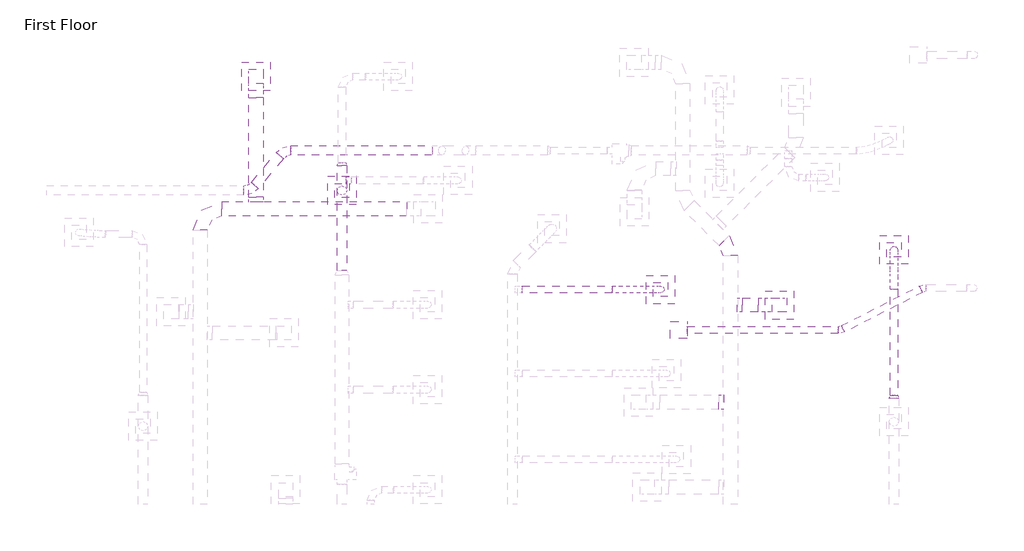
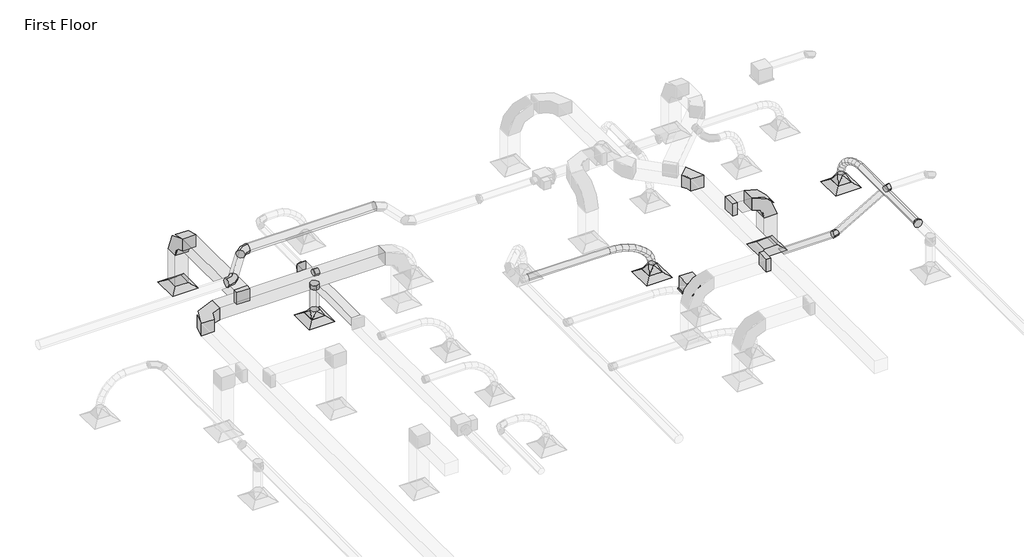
# One storey, part 30 of 61: 18 duct fittings, 15 duct segments, 5 air terminals, 1 proxy.
"""IFC4 building model written with IfcOpenShell, lengths in millimetres."""

from ifc_helpers import new_model, si_unit, point, frame, frame_2d, origin, place, context, project, spatial, polyline, circle_curve, ellipse_curve, trimmed, segment, composite_curve, outline, extrude, transform, mapped, element, save
from ifc_brep_helpers import plane_surface, cylinder_surface, advanced_brep
from components import m_exhaust_grill_er_600_x_600_face_300_x_300_connection_ff221211, proxy_47_84_lps_344db5a5, m_rectangular_elbow_radius_1_5_w_5bed5c13, m_rectangular_elbow_radius_1_5_w_86011e9f, m_rectangular_takeoff_standard_c00386d1, m_rectangular_takeoff_standard_b44bfa45, m_rectangular_to_round_transition_angle_45_degree_8f201c83, m_rectangular_to_round_transition_angle_45_degree_60daae35, m_rectangular_to_round_transition_angle_45_degree_a3d48f28, m_round_elbow_1_5_d_4104341f, m_round_elbow_1_5_d_e77d2968, m_round_takeoff_standard_d02f3bf7, m_round_takeoff_standard_8efdd074, m_round_transition_angle_45_degree_6d7b59ce

model = new_model("IFC4")

# Units and contexts
model_context = context("Model", 3, world=origin())
ifc_project = project(units=[si_unit("LENGTHUNIT", "METRE", prefix="MILLI")], contexts=[model_context])

# Site, building, storey
site = spatial("IfcSite", under=ifc_project)
building = spatial("IfcBuilding", under=site)
storey = spatial("IfcBuildingStorey", under=building, Name="First Floor", Elevation=0.0)

# Air terminals
placement = place(None, origin())
m_exhaust_grill_er_600_x_600_face_300_x_300_connection_shape = m_exhaust_grill_er_600_x_600_face_300_x_300_connection_ff221211(model_context)
element("IfcAirTerminal", 1, ObjectType="M_Return Register : RR-600 x 600 Face 300 x 300 Connection", at=placement, inside=storey, context=model_context, shape_type="MappedRepresentation", body=[
    mapped(m_exhaust_grill_er_600_x_600_face_300_x_300_connection_shape, transform((-3467.2135398, 22443.0604169, 2680.0), x_axis=(1.0, 0.0, 0.0), y_axis=(0.0, 1.0, 0.0), z_axis=(0.0, 0.0, 1.0))),
])
element("IfcAirTerminal", 2, ObjectType="M_Return Register : RR-600 x 600 Face 300 x 300 Connection", at=placement, inside=storey, context=model_context, shape_type="MappedRepresentation", body=[
    mapped(m_exhaust_grill_er_600_x_600_face_300_x_300_connection_shape, transform((-14488.9910795, 27258.4577394, 2680.0), x_axis=(1.0, 0.0, 0.0), y_axis=(0.0, 1.0, 0.0), z_axis=(0.0, 0.0, 1.0))),
])
element("IfcAirTerminal", 3, ObjectType="M_Supply Diffuser : SD-600 x 600 Face 300 x 300 Connection", at=placement, inside=storey, context=model_context, shape_type="MappedRepresentation", body=[
    mapped(m_exhaust_grill_er_600_x_600_face_300_x_300_connection_shape, transform((-1059.7406517, 23609.4204047, 2680.0), x_axis=(1.0, 0.0, 0.0), y_axis=(0.0, 1.0, 0.0), z_axis=(0.0, 0.0, 1.0))),
])
element("IfcAirTerminal", 4, ObjectType="M_Supply Diffuser : SD-600 x 600 Face 300 x 300 Connection", at=placement, inside=storey, context=model_context, shape_type="MappedRepresentation", body=[
    mapped(m_exhaust_grill_er_600_x_600_face_300_x_300_connection_shape, transform((-5974.1145029, 22770.9660121, 2680.0), x_axis=(1.0, 0.0, 0.0), y_axis=(0.0, 1.0, 0.0), z_axis=(0.0, 0.0, 1.0))),
])
element("IfcAirTerminal", 5, ObjectType="M_Supply Diffuser : SD-600 x 600 Face 300 x 300 Connection", at=placement, inside=storey, context=model_context, shape_type="MappedRepresentation", body=[
    mapped(m_exhaust_grill_er_600_x_600_face_300_x_300_connection_shape, transform((-12680.2492424, 24856.75, 2680.0), x_axis=(1.0, 0.0, 0.0), y_axis=(0.0, 1.0, 0.0), z_axis=(0.0, 0.0, 1.0))),
])

# Proxy
proxy_47_84_lps_shape = proxy_47_84_lps_344db5a5(model_context)
element("IfcBuildingElementProxy", 6, Name="M_Exhaust Unit with Cabinet - Round Connection - Ceiling Mounted : 47-84 LPS", ObjectType="M_Exhaust Unit with Cabinet - Round Connection - Ceiling Mounted : 47-84 LPS", at=placement, inside=storey, context=model_context, shape_type="MappedRepresentation", body=[
    mapped(proxy_47_84_lps_shape, transform((-5586.8009033, 21917.4766608, 2680.0), x_axis=(0.0, 1.0000000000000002, 0.0), y_axis=(-1.0000000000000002, 0.0, 0.0), z_axis=(0.0, 0.0, 1.0))),
])

# Duct fittings
m_rectangular_elbow_radius_1_5_w_shape = m_rectangular_elbow_radius_1_5_w_5bed5c13(model_context)
element("IfcDuctFitting", 7, ObjectType="M_Rectangular Elbow - Radius : 1.5 W", at=placement, inside=storey, context=model_context, shape_type="MappedRepresentation", body=[
    mapped(m_rectangular_elbow_radius_1_5_w_shape, transform((-4500.4325102, 23669.0358848, 4000.0), x_axis=(0.0, 1.0, 0.0), y_axis=(-1.0, 0.0, 0.0), z_axis=(0.0, 0.0, 1.0))),
])
m_rectangular_elbow_radius_1_5_w_2_shape = m_rectangular_elbow_radius_1_5_w_86011e9f(model_context)
element("IfcDuctFitting", 8, ObjectType="M_Rectangular Elbow - Radius : 1.5 W", at=placement, inside=storey, context=model_context, shape_type="MappedRepresentation", body=[
    mapped(m_rectangular_elbow_radius_1_5_w_2_shape, transform((-3467.2135398, 22443.0604169, 4000.0), x_axis=(0.0, 0.0, 1.0), y_axis=(-1.0, 0.0, 0.0), z_axis=(0.0, -1.0, 0.0))),
])
element("IfcDuctFitting", 9, ObjectType="M_Rectangular Elbow - Radius : 1.5 W", at=placement, inside=storey, context=model_context, shape_type="MappedRepresentation", body=[
    mapped(m_rectangular_elbow_radius_1_5_w_2_shape, transform((-15665.3877031, 24469.0232506, 4000.0), x_axis=(-1.0, 0.0, 0.0), y_axis=(0.0, -1.0, 0.0), z_axis=(0.0, 0.0, 1.0))),
])
element("IfcDuctFitting", 10, ObjectType="M_Rectangular Elbow - Radius : 1.5 W", at=placement, inside=storey, context=model_context, shape_type="MappedRepresentation", body=[
    mapped(m_rectangular_elbow_radius_1_5_w_2_shape, transform((-14488.9910795, 27258.4577394, 4000.0), x_axis=(0.0, 0.0, 1.0), y_axis=(0.0, -1.0, 0.0), z_axis=(1.0, 0.0, 0.0))),
])
m_rectangular_takeoff_standard_shape = m_rectangular_takeoff_standard_c00386d1(model_context)
element("IfcDuctFitting", 11, ObjectType="M_Rectangular Takeoff : Standard", at=placement, inside=storey, context=model_context, shape_type="MappedRepresentation", body=[
    mapped(m_rectangular_takeoff_standard_shape, transform((-4650.4325102, 20395.3598934, 4000.0), x_axis=(-1.0, 0.0, 0.0), y_axis=(0.0, 1.0, 0.0), z_axis=(0.0, 0.0, -1.0))),
])
m_rectangular_takeoff_standard_2_shape = m_rectangular_takeoff_standard_b44bfa45(model_context)
element("IfcDuctFitting", 12, ObjectType="M_Rectangular Takeoff : Standard", at=placement, inside=storey, context=model_context, shape_type="MappedRepresentation", body=[
    mapped(m_rectangular_takeoff_standard_2_shape, transform((-4350.4325102, 22443.0604169, 4000.0), x_axis=(1.0, 0.0, 0.0), y_axis=(0.0, -1.0, 0.0), z_axis=(0.0, 0.0, -1.0))),
])
element("IfcDuctFitting", 13, ObjectType="M_Rectangular Takeoff : Standard", at=placement, inside=storey, context=model_context, shape_type="MappedRepresentation", body=[
    mapped(m_rectangular_takeoff_standard_2_shape, transform((-14488.9910795, 24619.0232506, 4000.0), x_axis=(0.0, 1.0, 0.0), y_axis=(1.0, 0.0, 0.0), z_axis=(0.0, 0.0, -1.0))),
])
m_rectangular_to_round_transition_angle_45_degree_shape = m_rectangular_to_round_transition_angle_45_degree_8f201c83(model_context)
element("IfcDuctFitting", 14, ObjectType="M_Rectangular to Round Transition - Angle : 45 Degree", at=placement, inside=storey, context=model_context, shape_type="MappedRepresentation", body=[
    mapped(m_rectangular_to_round_transition_angle_45_degree_shape, transform((-1059.7406517, 23609.4204047, 2781.6), x_axis=(0.0, 0.0, 1.0), y_axis=(1.0, 0.0, 0.0), z_axis=(0.0, 1.0, 0.0))),
])
element("IfcDuctFitting", 15, ObjectType="M_Rectangular to Round Transition - Angle : 45 Degree", at=placement, inside=storey, context=model_context, shape_type="MappedRepresentation", body=[
    mapped(m_rectangular_to_round_transition_angle_45_degree_shape, transform((-5974.1145029, 22770.9660121, 2781.6), x_axis=(0.0, 0.0, 1.0), y_axis=(1.0, 0.0, 0.0), z_axis=(0.0, 1.0, 0.0))),
])
m_rectangular_to_round_transition_angle_45_degree_2_shape = m_rectangular_to_round_transition_angle_45_degree_60daae35(model_context)
element("IfcDuctFitting", 16, ObjectType="M_Rectangular to Round Transition - Angle : 45 Degree", at=placement, inside=storey, context=model_context, shape_type="MappedRepresentation", body=[
    mapped(m_rectangular_to_round_transition_angle_45_degree_2_shape, transform((-12680.2492424, 24856.75, 2781.6), x_axis=(0.0, 0.0, 1.0), y_axis=(-1.0, 0.0, 0.0), z_axis=(0.0, -1.0, 0.0))),
])
m_rectangular_to_round_transition_angle_45_degree_3_shape = m_rectangular_to_round_transition_angle_45_degree_a3d48f28(model_context)
element("IfcDuctFitting", 17, ObjectType="M_Rectangular to Round Transition - Angle : 45 Degree", at=placement, inside=storey, context=model_context, shape_type="MappedRepresentation", body=[
    mapped(m_rectangular_to_round_transition_angle_45_degree_3_shape, transform((-12680.2492424, 25379.8596581, 3644.1), x_axis=(0.0, 1.0, 0.0), y_axis=(-1.0, 0.0, 0.0), z_axis=(0.0, 0.0, 1.0))),
])
m_round_elbow_1_5_d_shape = m_round_elbow_1_5_d_4104341f(model_context)
element("IfcDuctFitting", 18, ObjectType="M_Round Elbow : 1.5 D", at=placement, inside=storey, context=model_context, shape_type="MappedRepresentation", body=[
    mapped(m_round_elbow_1_5_d_shape, transform((-13898.3480569, 25699.9431749, 4279.0), x_axis=(-1.0, 0.0, 0.0), y_axis=(0.0, -1.0, 0.0), z_axis=(0.0, 0.0, 1.0))),
])
element("IfcDuctFitting", 19, ObjectType="M_Round Elbow : 1.5 D", at=placement, inside=storey, context=model_context, shape_type="MappedRepresentation", body=[
    mapped(m_round_elbow_1_5_d_shape, transform((-14605.4144275, 24857.2942874, 4279.0), x_axis=(1.0, 0.0, 0.0), y_axis=(0.0, 1.0, 0.0), z_axis=(0.0, 0.0, 1.0))),
])
m_round_elbow_1_5_d_2_shape = m_round_elbow_1_5_d_e77d2968(model_context)
element("IfcDuctFitting", 20, ObjectType="M_Round Elbow : 1.5 D", at=placement, inside=storey, context=model_context, shape_type="MappedRepresentation", body=[
    mapped(m_round_elbow_1_5_d_2_shape, transform((-2182.120993, 21917.4766608, 2879.6), x_axis=(1.0, 0.0, 0.0), y_axis=(0.0, 1.0, 0.0), z_axis=(0.0, 0.0, 1.0))),
])
element("IfcDuctFitting", 21, ObjectType="M_Round Elbow : 1.5 D", at=placement, inside=storey, context=model_context, shape_type="MappedRepresentation", body=[
    mapped(m_round_elbow_1_5_d_2_shape, transform((-444.0219304, 22803.0823669, 2879.6), x_axis=(-1.0, 0.0, 0.0), y_axis=(0.0, -1.0, 0.0), z_axis=(0.0, 0.0, 1.0))),
])
m_round_takeoff_standard_shape = m_round_takeoff_standard_d02f3bf7(model_context)
element("IfcDuctFitting", 22, ObjectType="M_Round Takeoff : Standard", at=placement, inside=storey, context=model_context, shape_type="MappedRepresentation", body=[
    mapped(m_round_takeoff_standard_shape, transform((-12580.2492424, 25070.5269041, 3644.1), x_axis=(1.0, 0.0, 0.0), y_axis=(0.0, -1.0, 0.0), z_axis=(0.0, 0.0, -1.0))),
])
m_round_takeoff_standard_2_shape = m_round_takeoff_standard_8efdd074(model_context)
element("IfcDuctFitting", 23, ObjectType="M_Round Takeoff : Standard", at=placement, inside=storey, context=model_context, shape_type="MappedRepresentation", body=[
    mapped(m_round_takeoff_standard_2_shape, transform((-12680.2492424, 24856.75, 3544.1), x_axis=(0.0, 0.0, -1.0), y_axis=(1.0, 0.0, 0.0), z_axis=(0.0, -1.0, 0.0))),
])
m_round_transition_angle_45_degree_shape = m_round_transition_angle_45_degree_6d7b59ce(model_context)
element("IfcDuctFitting", 24, ObjectType="M_Round Transition - Angle : 45 Degree", at=placement, inside=storey, context=model_context, shape_type="MappedRepresentation", body=[
    mapped(m_round_transition_angle_45_degree_shape, transform((-1059.7279224, 20476.6573912, 3619.1), x_axis=(0.0, 1.0, 0.0), y_axis=(-1.0, 0.0, 0.0), z_axis=(0.0, 0.0, 1.0))),
])

# Duct segments
element("IfcDuctSegment", 25, ObjectType="Flex - Round", at=placement, inside=storey, context=model_context, shape_type="AdvancedBrep", body=[
    advanced_brep(
    [(-1134.7279224, 22776.6570923, 3619.1), (-1059.7278927, 22769.2040954, 3544.471263), (-984.7279224, 22776.6576901, 3619.1), (-1059.7279521, 22784.110687, 3693.728737), (-1134.7284694, 22913.9210664, 3605.3912192), (-1059.7284144, 22900.1261645, 3531.3958588), (-984.7284694, 22913.9221113, 3605.3911745), (-1059.7285244, 22927.7170132, 3679.3865349), (-1134.7406517, 23609.4192167, 2962.6661385), (-1059.7418043, 23683.4301837, 2974.8131406), (-984.7406517, 23609.4215926, 2962.6658958), (-1059.7394991, 23535.4106257, 2950.5188937), (-1134.7299114, 23055.8912751, 3566.2374927), (-1059.72974, 23030.6381098, 3495.4021876), (-984.7299114, 23055.8930371, 3566.2372503), (-1059.7300827, 23081.1462023, 3637.0725554), (-1134.73195, 23195.4764042, 3504.5976185), (-1059.7316338, 23160.3037267, 3438.1427047), (-984.7319501, 23195.4786061, 3504.5971818), (-1059.7322663, 23230.6512835, 3571.0520956), (-1134.7342871, 23325.584825, 3423.4304534), (-1059.733802, 23281.0127691, 3362.8392715), (-984.7342871, 23325.5872714, 3423.4298642), (-1059.7347721, 23370.1593272, 3484.0210461), (-1134.7366241, 23439.1249278, 3325.6948584), (-1059.7359432, 23385.0406527, 3273.2918178), (-984.7366241, 23439.1274672, 3325.6941891), (-1059.7373049, 23493.2117422, 3378.0972297), (-1134.7386627, 23529.0051103, 3214.3496873), (-1059.7377627, 23465.2580046, 3173.9171334), (-984.7386628, 23529.0076201, 3214.3490547), (-1059.7395628, 23592.7547257, 3254.7816087), (-1134.7401047, 23588.1337615, 3092.353784), (-1059.7389975, 23515.8905078, 3069.4507226), (-984.7401048, 23588.1361655, 3092.3533696), (-1059.741212, 23660.3794192, 3115.256431)],
    [
        (0, 1, circle_curve(frame((-1059.7279224, 22776.6573912, 3619.1), z_axis=(3.965011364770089e-06, -0.995049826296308, 0.09937727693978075), x_axis=(-0.999999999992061, -3.984736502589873e-06, 0.0)), 75.0)),
        (1, 2, circle_curve(frame((-1059.7279224, 22776.6573912, 3619.1), z_axis=(3.965011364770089e-06, -0.995049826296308, 0.09937727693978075), x_axis=(-0.999999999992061, -3.984736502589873e-06, 0.0)), 75.0)),
        (2, 3, circle_curve(frame((-1059.7279224, 22776.6573912, 3619.1), z_axis=(3.965011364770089e-06, -0.995049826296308, 0.09937727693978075), x_axis=(-0.999999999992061, -3.984736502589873e-06, 0.0)), 75.0)),
        (3, 0, circle_curve(frame((-1059.7279224, 22776.6573912, 3619.1), z_axis=(3.965011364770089e-06, -0.995049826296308, 0.09937727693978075), x_axis=(-0.999999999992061, -3.984736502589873e-06, 0.0)), 75.0)),
        (0, 4),
        (4, 5, ellipse_curve(frame((-1059.7284694, 22913.9215888, 3605.3911969), z_axis=(6.903009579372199e-06, -0.9830610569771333, 0.18327836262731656), x_axis=(-3.44036717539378e-05, -0.183278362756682, -0.9830610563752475)), 75.270338, 75.0)),
        (5, 1),
        (5, 6, ellipse_curve(frame((-1059.7284694, 22913.9215888, 3605.3911969), z_axis=(6.903009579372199e-06, -0.9830610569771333, 0.18327836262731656), x_axis=(-3.44036717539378e-05, -0.183278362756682, -0.9830610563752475)), 75.270338, 75.0)),
        (6, 2),
        (6, 7, ellipse_curve(frame((-1059.7284694, 22913.9215888, 3605.3911969), z_axis=(6.903009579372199e-06, -0.9830610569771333, 0.18327836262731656), x_axis=(-3.44036717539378e-05, -0.183278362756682, -0.9830610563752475)), 75.270338, 75.0)),
        (7, 3),
        (7, 4, ellipse_curve(frame((-1059.7284694, 22913.9215888, 3605.3911969), z_axis=(6.903009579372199e-06, -0.9830610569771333, 0.18327836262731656), x_axis=(-3.44036717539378e-05, -0.183278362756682, -0.9830610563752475)), 75.270338, 75.0)),
        (8, 9, circle_curve(frame((-1059.7406517, 23609.4204047, 2962.6660172), z_axis=(-4.161849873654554e-06, 0.16196164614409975, -0.9867970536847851), x_axis=(-0.9999999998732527, -1.583910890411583e-05, 1.617882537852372e-06)), 75.0)),
        (9, 10, circle_curve(frame((-1059.7406517, 23609.4204047, 2962.6660172), z_axis=(-4.161849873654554e-06, 0.16196164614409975, -0.9867970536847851), x_axis=(-0.9999999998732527, -1.583910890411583e-05, 1.617882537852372e-06)), 75.0)),
        (10, 11, circle_curve(frame((-1059.7406517, 23609.4204047, 2962.6660172), z_axis=(-4.161849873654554e-06, 0.16196164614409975, -0.9867970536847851), x_axis=(-0.9999999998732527, -1.583910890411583e-05, 1.617882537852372e-06)), 75.0)),
        (11, 8, circle_curve(frame((-1059.7406517, 23609.4204047, 2962.6660172), z_axis=(-4.161849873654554e-06, 0.16196164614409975, -0.9867970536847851), x_axis=(-0.9999999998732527, -1.583910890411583e-05, 1.617882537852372e-06)), 75.0)),
        (4, 12),
        (12, 13, ellipse_curve(frame((-1059.7299114, 23055.8921561, 3566.2373715), z_axis=(1.1607200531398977e-05, -0.9419280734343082, 0.33581468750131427), x_axis=(-2.434409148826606e-05, -0.33581468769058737, -0.9419280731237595)), 75.2023279, 75.0)),
        (13, 5),
        (13, 14, ellipse_curve(frame((-1059.7299114, 23055.8921561, 3566.2373715), z_axis=(1.1607200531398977e-05, -0.9419280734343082, 0.33581468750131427), x_axis=(-2.434409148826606e-05, -0.33581468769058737, -0.9419280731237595)), 75.2023279, 75.0)),
        (14, 6),
        (14, 15, ellipse_curve(frame((-1059.7299114, 23055.8921561, 3566.2373715), z_axis=(1.1607200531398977e-05, -0.9419280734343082, 0.33581468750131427), x_axis=(-2.434409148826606e-05, -0.33581468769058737, -0.9419280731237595)), 75.2023279, 75.0)),
        (15, 7),
        (15, 12, ellipse_curve(frame((-1059.7299114, 23055.8921561, 3566.2373715), z_axis=(1.1607200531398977e-05, -0.9419280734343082, 0.33581468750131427), x_axis=(-2.434409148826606e-05, -0.33581468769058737, -0.9419280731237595)), 75.2023279, 75.0)),
        (12, 16),
        (16, 17, ellipse_curve(frame((-1059.73195, 23195.4775051, 3504.5974001), z_axis=(1.4336203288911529e-05, -0.8838325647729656, 0.46780337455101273), x_axis=(-1.3251880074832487e-05, -0.46780337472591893, -0.8838325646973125)), 75.1892362, 75.0)),
        (17, 13),
        (17, 18, ellipse_curve(frame((-1059.73195, 23195.4775051, 3504.5974001), z_axis=(1.4336203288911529e-05, -0.8838325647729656, 0.46780337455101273), x_axis=(-1.3251880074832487e-05, -0.46780337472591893, -0.8838325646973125)), 75.1892362, 75.0)),
        (18, 14),
        (18, 19, ellipse_curve(frame((-1059.73195, 23195.4775051, 3504.5974001), z_axis=(1.4336203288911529e-05, -0.8838325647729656, 0.46780337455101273), x_axis=(-1.3251880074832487e-05, -0.46780337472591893, -0.8838325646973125)), 75.1892362, 75.0)),
        (19, 15),
        (19, 16, ellipse_curve(frame((-1059.73195, 23195.4775051, 3504.5974001), z_axis=(1.4336203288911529e-05, -0.8838325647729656, 0.46780337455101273), x_axis=(-1.3251880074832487e-05, -0.46780337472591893, -0.8838325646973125)), 75.1892362, 75.0)),
        (16, 20),
        (20, 21, ellipse_curve(frame((-1059.7342871, 23325.5860482, 3423.4301588), z_axis=(1.5464909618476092e-05, -0.8055167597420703, 0.59257299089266), x_axis=(-2.355468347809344e-06, -0.5925729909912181, -0.805516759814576)), 75.2198965, 75.0)),
        (21, 17),
        (21, 22, ellipse_curve(frame((-1059.7342871, 23325.5860482, 3423.4301588), z_axis=(1.5464909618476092e-05, -0.8055167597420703, 0.59257299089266), x_axis=(-2.355468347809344e-06, -0.5925729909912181, -0.805516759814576)), 75.2198965, 75.0)),
        (22, 18),
        (22, 23, ellipse_curve(frame((-1059.7342871, 23325.5860482, 3423.4301588), z_axis=(1.5464909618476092e-05, -0.8055167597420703, 0.59257299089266), x_axis=(-2.355468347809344e-06, -0.5925729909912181, -0.805516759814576)), 75.2198965, 75.0)),
        (23, 19),
        (23, 20, ellipse_curve(frame((-1059.7342871, 23325.5860482, 3423.4301588), z_axis=(1.5464909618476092e-05, -0.8055167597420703, 0.59257299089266), x_axis=(-2.355468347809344e-06, -0.5925729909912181, -0.805516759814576)), 75.2198965, 75.0)),
        (20, 24),
        (24, 25, ellipse_curve(frame((-1059.7366241, 23439.1261975, 3325.6945238), z_axis=(1.4984618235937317e-05, -0.6958454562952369, 0.718191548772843), x_axis=(7.486205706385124e-06, -0.7181915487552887, -0.6958454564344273)), 75.307966, 75.0)),
        (25, 21),
        (25, 26, ellipse_curve(frame((-1059.7366241, 23439.1261975, 3325.6945238), z_axis=(1.4984618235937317e-05, -0.6958454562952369, 0.718191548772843), x_axis=(7.486205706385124e-06, -0.7181915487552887, -0.6958454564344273)), 75.307966, 75.0)),
        (26, 22),
        (26, 27, ellipse_curve(frame((-1059.7366241, 23439.1261975, 3325.6945238), z_axis=(1.4984618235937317e-05, -0.6958454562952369, 0.718191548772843), x_axis=(7.486205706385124e-06, -0.7181915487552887, -0.6958454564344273)), 75.307966, 75.0)),
        (27, 23),
        (27, 24, ellipse_curve(frame((-1059.7366241, 23439.1261975, 3325.6945238), z_axis=(1.4984618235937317e-05, -0.6958454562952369, 0.718191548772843), x_axis=(7.486205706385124e-06, -0.7181915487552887, -0.6958454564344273)), 75.307966, 75.0)),
        (24, 28),
        (28, 29, ellipse_curve(frame((-1059.7386628, 23529.0063652, 3214.349371), z_axis=(1.25229116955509e-05, -0.5356029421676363, 0.8444699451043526), x_axis=(1.5882722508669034e-05, -0.8444699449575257, -0.5356029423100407)), 75.4892, 75.0)),
        (29, 25),
        (29, 30, ellipse_curve(frame((-1059.7386628, 23529.0063652, 3214.349371), z_axis=(1.25229116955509e-05, -0.5356029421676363, 0.8444699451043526), x_axis=(1.5882722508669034e-05, -0.8444699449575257, -0.5356029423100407)), 75.4892, 75.0)),
        (30, 26),
        (30, 31, ellipse_curve(frame((-1059.7386628, 23529.0063652, 3214.349371), z_axis=(1.25229116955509e-05, -0.5356029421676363, 0.8444699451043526), x_axis=(1.5882722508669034e-05, -0.8444699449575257, -0.5356029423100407)), 75.4892, 75.0)),
        (31, 27),
        (31, 28, ellipse_curve(frame((-1059.7386628, 23529.0063652, 3214.349371), z_axis=(1.25229116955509e-05, -0.5356029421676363, 0.8444699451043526), x_axis=(1.5882722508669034e-05, -0.8444699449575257, -0.5356029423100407)), 75.4892, 75.0)),
        (28, 32),
        (32, 33, ellipse_curve(frame((-1059.7401047, 23588.1349635, 3092.3535768), z_axis=(7.476910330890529e-06, -0.30219680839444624, 0.953245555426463), x_axis=(2.250996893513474e-05, -0.9532455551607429, -0.3021968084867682)), 75.7878757, 75.0)),
        (33, 29),
        (33, 34, ellipse_curve(frame((-1059.7401047, 23588.1349635, 3092.3535768), z_axis=(7.476910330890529e-06, -0.30219680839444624, 0.953245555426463), x_axis=(2.250996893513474e-05, -0.9532455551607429, -0.3021968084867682)), 75.7878757, 75.0)),
        (34, 30),
        (34, 35, ellipse_curve(frame((-1059.7401047, 23588.1349635, 3092.3535768), z_axis=(7.476910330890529e-06, -0.30219680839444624, 0.953245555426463), x_axis=(2.250996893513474e-05, -0.9532455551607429, -0.3021968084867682)), 75.7878757, 75.0)),
        (35, 31),
        (35, 32, ellipse_curve(frame((-1059.7401047, 23588.1349635, 3092.3535768), z_axis=(7.476910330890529e-06, -0.30219680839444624, 0.953245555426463), x_axis=(2.250996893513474e-05, -0.9532455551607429, -0.3021968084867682)), 75.7878757, 75.0)),
        (32, 8),
        (11, 33),
        (10, 34),
        (9, 35),
    ],
    [
        plane_surface(frame((-1059.7279224, 22784.110687, 3693.728737), z_axis=(3.965011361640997e-06, -0.9950498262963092, 0.0993772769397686), x_axis=(0.9999999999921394, 3.945383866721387e-06, -3.9403203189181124e-07))),
        cylinder_surface(frame((-1059.7279224, 22776.6573912, 3619.1), z_axis=(3.96501136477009e-06, -0.9950498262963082, 0.09937727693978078), x_axis=(-0.999999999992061, -3.984736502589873e-06, 0.0)), 75.0),
        plane_surface(frame((-1059.7406517, 23683.4301837, 2974.8131406), z_axis=(-4.161849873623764e-06, 0.1619616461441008, -0.986797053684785), x_axis=(0.9999999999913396, 6.740600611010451e-07, -4.106901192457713e-06))),
        cylinder_surface(frame((-1059.7284694, 22913.9215888, 3605.3911969), z_axis=(9.79142262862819e-06, -0.9640108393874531, 0.2658629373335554), x_axis=(-0.9999999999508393, -9.85512551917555e-06, 1.094454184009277e-06)), 75.0),
        cylinder_surface(frame((-1059.7299114, 23055.8921561, 3566.2373715), z_axis=(1.3360521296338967e-05, -0.9147768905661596, 0.40395945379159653), x_axis=(-0.9999999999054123, -1.3541544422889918e-05, 2.408730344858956e-06)), 75.0),
        cylinder_surface(frame((-1059.73195, 23195.4775051, 3504.5974001), z_axis=(1.5239722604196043e-05, -0.848439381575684, 0.5292925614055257), x_axis=(-0.9999999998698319, -1.5735098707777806e-05, 3.569755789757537e-06)), 75.0),
        cylinder_surface(frame((-1059.7342871, 23325.5860482, 3423.4301588), z_axis=(1.5599676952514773e-05, -0.7578844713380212, 0.6523887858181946), x_axis=(-0.9999999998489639, -1.682203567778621e-05, 4.36935366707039e-06)), 75.0),
        cylinder_surface(frame((-1059.7366241, 23439.1261975, 3325.6945238), z_axis=(1.4247002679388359e-05, -0.628115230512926, 0.7781203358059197), x_axis=(-0.999999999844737, -1.701833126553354e-05, 4.5719530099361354e-06)), 75.0),
        cylinder_surface(frame((-1059.7386628, 23529.0063652, 3214.349371), z_axis=(1.0636513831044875e-05, -0.43614881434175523, 0.8998745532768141), x_axis=(-0.9999999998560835, -1.653303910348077e-05, 3.8068066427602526e-06)), 75.0),
        cylinder_surface(frame((-1059.7401047, 23588.1349635, 3092.3535768), z_axis=(4.161849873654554e-06, -0.16196164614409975, 0.9867970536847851), x_axis=(-0.9999999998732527, -1.583910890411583e-05, 1.617882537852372e-06)), 75.0),
    ],
    [
        (0, [[1, 2, 3, 4]]),
        (1, [[-1, 5, 6, 7]]),
        (1, [[-2, -7, 8, 9]]),
        (1, [[-3, -9, 10, 11]]),
        (1, [[-4, -11, 12, -5]]),
        (2, [[13, 14, 15, 16]]),
        (3, [[-6, 17, 18, 19]]),
        (3, [[-8, -19, 20, 21]]),
        (3, [[-10, -21, 22, 23]]),
        (3, [[-12, -23, 24, -17]]),
        (4, [[-18, 25, 26, 27]]),
        (4, [[-20, -27, 28, 29]]),
        (4, [[-22, -29, 30, 31]]),
        (4, [[-24, -31, 32, -25]]),
        (5, [[-26, 33, 34, 35]]),
        (5, [[-28, -35, 36, 37]]),
        (5, [[-30, -37, 38, 39]]),
        (5, [[-32, -39, 40, -33]]),
        (6, [[-34, 41, 42, 43]]),
        (6, [[-36, -43, 44, 45]]),
        (6, [[-38, -45, 46, 47]]),
        (6, [[-40, -47, 48, -41]]),
        (7, [[-42, 49, 50, 51]]),
        (7, [[-44, -51, 52, 53]]),
        (7, [[-46, -53, 54, 55]]),
        (7, [[-48, -55, 56, -49]]),
        (8, [[-50, 57, 58, 59]]),
        (8, [[-52, -59, 60, 61]]),
        (8, [[-54, -61, 62, 63]]),
        (8, [[-56, -63, 64, -57]]),
        (9, [[-58, 65, -16, 66]]),
        (9, [[-60, -66, -15, 67]]),
        (9, [[-62, -67, -14, 68]]),
        (9, [[-64, -68, -13, -65]]),
    ],
),
])
element("IfcDuctSegment", 26, ObjectType="Flex - Round", at=placement, inside=storey, context=model_context, shape_type="AdvancedBrep", body=[
    advanced_brep(
    [(-6989.2747853, 22845.9660121, 3619.1), (-6994.1836938, 22770.9660121, 3544.2608216), (-6989.2747853, 22695.9660121, 3619.1), (-6984.3658768, 22770.9660121, 3693.9391784), (-6848.3295853, 22845.9660121, 3609.8550149), (-6857.5100065, 22770.9660121, 3535.2960169), (-6848.3295853, 22695.9660121, 3609.8550149), (-6839.1491642, 22770.9660121, 3684.414013), (-5974.1145029, 22845.9660121, 2962.6660172), (-5900.1449084, 22770.9660121, 2975.055492), (-5974.1145029, 22695.9660121, 2962.6660172), (-6048.0840974, 22770.9660121, 2950.2765424), (-6698.6470412, 22845.9660121, 3582.6904907), (-6715.8887754, 22770.9660121, 3509.5944671), (-6698.6470412, 22695.9660121, 3582.6904907), (-6681.4053071, 22770.9660121, 3655.7865143), (-6546.987759, 22845.9660121, 3538.4620736), (-6571.8268019, 22770.9660121, 3467.5816541), (-6546.987759, 22695.9660121, 3538.4620736), (-6522.1487162, 22770.9660121, 3609.342493), (-6400.1123448, 22845.9660121, 3478.02541), (-6432.8233473, 22770.9660121, 3410.3841642), (-6400.1123448, 22695.9660121, 3478.02541), (-6367.4013422, 22770.9660121, 3545.6666557), (-6264.7814044, 22845.9660121, 3402.2361462), (-6306.2336968, 22770.9660121, 3339.4902771), (-6264.7814044, 22695.9660121, 3402.2361462), (-6223.3291121, 22770.9660121, 3464.9820154), (-6147.7555441, 22845.9660121, 3311.9499287), (-6199.2057455, 22770.9660121, 3256.9175119), (-6147.7555441, 22695.9660121, 3311.9499287), (-6096.3053426, 22770.9660121, 3366.9823456), (-6055.7953697, 22845.9660121, 3208.0224038), (-6118.1740169, 22770.9660121, 3165.3406195), (-6055.7953697, 22695.9660121, 3208.0224038), (-5993.4167224, 22770.9660121, 3250.7041881), (-5995.6614873, 22845.9660121, 3091.3092178), (-6067.6964425, 22770.9660121, 3067.3692548), (-5995.6614873, 22695.9660121, 3091.3092178), (-5923.626532, 22770.9660121, 3115.2491809)],
    [
        (0, 1, circle_curve(frame((-6989.2747853, 22770.9660121, 3619.1), z_axis=(-0.9978557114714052, 0.0, 0.06545211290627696), x_axis=(0.0, 1.0, 0.0)), 75.0)),
        (1, 2, circle_curve(frame((-6989.2747853, 22770.9660121, 3619.1), z_axis=(-0.9978557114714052, 0.0, 0.06545211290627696), x_axis=(0.0, 1.0, 0.0)), 75.0)),
        (2, 3, circle_curve(frame((-6989.2747853, 22770.9660121, 3619.1), z_axis=(-0.9978557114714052, 0.0, 0.06545211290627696), x_axis=(0.0, 1.0, 0.0)), 75.0)),
        (3, 0, circle_curve(frame((-6989.2747853, 22770.9660121, 3619.1), z_axis=(-0.9978557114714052, 0.0, 0.06545211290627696), x_axis=(0.0, 1.0, 0.0)), 75.0)),
        (0, 4),
        (4, 5, ellipse_curve(frame((-6848.3295853, 22770.9660121, 3609.8550149), z_axis=(-0.9925046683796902, 0.0, 0.1222067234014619), x_axis=(-0.12220672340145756, 0.0, -0.9925046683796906)), 75.1220628, 75.0)),
        (5, 1),
        (5, 6, ellipse_curve(frame((-6848.3295853, 22770.9660121, 3609.8550149), z_axis=(-0.9925046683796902, 0.0, 0.1222067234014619), x_axis=(-0.12220672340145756, 0.0, -0.9925046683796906)), 75.1220628, 75.0)),
        (6, 2),
        (6, 7, ellipse_curve(frame((-6848.3295853, 22770.9660121, 3609.8550149), z_axis=(-0.9925046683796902, 0.0, 0.1222067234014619), x_axis=(-0.12220672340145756, 0.0, -0.9925046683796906)), 75.1220628, 75.0)),
        (7, 3),
        (7, 4, ellipse_curve(frame((-6848.3295853, 22770.9660121, 3609.8550149), z_axis=(-0.9925046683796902, 0.0, 0.1222067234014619), x_axis=(-0.12220672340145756, 0.0, -0.9925046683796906)), 75.1220628, 75.0)),
        (8, 9, circle_curve(frame((-5974.1145029, 22770.9660121, 2962.6660172), z_axis=(0.16519299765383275, 0.0, -0.9862612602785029), x_axis=(0.0, 1.0, 0.0)), 75.0)),
        (9, 10, circle_curve(frame((-5974.1145029, 22770.9660121, 2962.6660172), z_axis=(0.16519299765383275, 0.0, -0.9862612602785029), x_axis=(0.0, 1.0, 0.0)), 75.0)),
        (10, 11, circle_curve(frame((-5974.1145029, 22770.9660121, 2962.6660172), z_axis=(0.16519299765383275, 0.0, -0.9862612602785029), x_axis=(0.0, 1.0, 0.0)), 75.0)),
        (11, 8, circle_curve(frame((-5974.1145029, 22770.9660121, 2962.6660172), z_axis=(0.16519299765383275, 0.0, -0.9862612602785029), x_axis=(0.0, 1.0, 0.0)), 75.0)),
        (4, 12),
        (12, 13, ellipse_curve(frame((-6698.6470412, 22770.9660121, 3582.6904907), z_axis=(-0.9732903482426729, 0.0, 0.22957765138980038), x_axis=(-0.22957765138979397, 0.0, -0.9732903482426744)), 75.1019711, 75.0)),
        (13, 5),
        (13, 14, ellipse_curve(frame((-6698.6470412, 22770.9660121, 3582.6904907), z_axis=(-0.9732903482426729, 0.0, 0.22957765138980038), x_axis=(-0.22957765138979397, 0.0, -0.9732903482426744)), 75.1019711, 75.0)),
        (14, 6),
        (14, 15, ellipse_curve(frame((-6698.6470412, 22770.9660121, 3582.6904907), z_axis=(-0.9732903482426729, 0.0, 0.22957765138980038), x_axis=(-0.22957765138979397, 0.0, -0.9732903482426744)), 75.1019711, 75.0)),
        (15, 7),
        (15, 12, ellipse_curve(frame((-6698.6470412, 22770.9660121, 3582.6904907), z_axis=(-0.9732903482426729, 0.0, 0.22957765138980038), x_axis=(-0.22957765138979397, 0.0, -0.9732903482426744)), 75.1019711, 75.0)),
        (12, 16),
        (16, 17, ellipse_curve(frame((-6546.987759, 22770.9660121, 3538.4620736), z_axis=(-0.943730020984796, 0.0, 0.3307168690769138), x_axis=(-0.3307168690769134, 0.0, -0.9437300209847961)), 75.1066702, 75.0)),
        (17, 13),
        (17, 18, ellipse_curve(frame((-6546.987759, 22770.9660121, 3538.4620736), z_axis=(-0.943730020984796, 0.0, 0.3307168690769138), x_axis=(-0.3307168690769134, 0.0, -0.9437300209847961)), 75.1066702, 75.0)),
        (18, 14),
        (18, 19, ellipse_curve(frame((-6546.987759, 22770.9660121, 3538.4620736), z_axis=(-0.943730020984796, 0.0, 0.3307168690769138), x_axis=(-0.3307168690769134, 0.0, -0.9437300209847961)), 75.1066702, 75.0)),
        (19, 15),
        (19, 16, ellipse_curve(frame((-6546.987759, 22770.9660121, 3538.4620736), z_axis=(-0.943730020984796, 0.0, 0.3307168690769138), x_axis=(-0.3307168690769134, 0.0, -0.9437300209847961)), 75.1066702, 75.0)),
        (16, 20),
        (20, 21, ellipse_curve(frame((-6400.1123448, 22770.9660121, 3478.02541), z_axis=(-0.9002564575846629, 0.0, 0.43535997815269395), x_axis=(-0.4353599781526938, 0.0, -0.900256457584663)), 75.1355296, 75.0)),
        (21, 17),
        (21, 22, ellipse_curve(frame((-6400.1123448, 22770.9660121, 3478.02541), z_axis=(-0.9002564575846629, 0.0, 0.43535997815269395), x_axis=(-0.4353599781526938, 0.0, -0.900256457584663)), 75.1355296, 75.0)),
        (22, 18),
        (22, 23, ellipse_curve(frame((-6400.1123448, 22770.9660121, 3478.02541), z_axis=(-0.9002564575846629, 0.0, 0.43535997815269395), x_axis=(-0.4353599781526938, 0.0, -0.900256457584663)), 75.1355296, 75.0)),
        (23, 19),
        (23, 20, ellipse_curve(frame((-6400.1123448, 22770.9660121, 3478.02541), z_axis=(-0.9002564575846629, 0.0, 0.43535997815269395), x_axis=(-0.4353599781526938, 0.0, -0.900256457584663)), 75.1355296, 75.0)),
        (20, 24),
        (24, 25, ellipse_curve(frame((-6264.7814044, 22770.9660121, 3402.2361462), z_axis=(-0.8343646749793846, 0.0, 0.5512128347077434), x_axis=(-0.5512128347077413, 0.0, -0.8343646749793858)), 75.2019723, 75.0)),
        (25, 21),
        (25, 26, ellipse_curve(frame((-6264.7814044, 22770.9660121, 3402.2361462), z_axis=(-0.8343646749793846, 0.0, 0.5512128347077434), x_axis=(-0.5512128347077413, 0.0, -0.8343646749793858)), 75.2019723, 75.0)),
        (26, 22),
        (26, 27, ellipse_curve(frame((-6264.7814044, 22770.9660121, 3402.2361462), z_axis=(-0.8343646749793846, 0.0, 0.5512128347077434), x_axis=(-0.5512128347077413, 0.0, -0.8343646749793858)), 75.2019723, 75.0)),
        (27, 23),
        (27, 24, ellipse_curve(frame((-6264.7814044, 22770.9660121, 3402.2361462), z_axis=(-0.8343646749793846, 0.0, 0.5512128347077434), x_axis=(-0.5512128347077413, 0.0, -0.8343646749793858)), 75.2019723, 75.0)),
        (24, 28),
        (28, 29, ellipse_curve(frame((-6147.7555441, 22770.9660121, 3311.9499287), z_axis=(-0.7304815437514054, 0.0, 0.682932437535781), x_axis=(-0.6829324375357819, 0.0, -0.7304815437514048)), 75.3371763, 75.0)),
        (29, 25),
        (29, 30, ellipse_curve(frame((-6147.7555441, 22770.9660121, 3311.9499287), z_axis=(-0.7304815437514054, 0.0, 0.682932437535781), x_axis=(-0.6829324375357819, 0.0, -0.7304815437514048)), 75.3371763, 75.0)),
        (30, 26),
        (30, 31, ellipse_curve(frame((-6147.7555441, 22770.9660121, 3311.9499287), z_axis=(-0.7304815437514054, 0.0, 0.682932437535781), x_axis=(-0.6829324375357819, 0.0, -0.7304815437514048)), 75.3371763, 75.0)),
        (31, 27),
        (31, 28, ellipse_curve(frame((-6147.7555441, 22770.9660121, 3311.9499287), z_axis=(-0.7304815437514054, 0.0, 0.682932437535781), x_axis=(-0.6829324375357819, 0.0, -0.7304815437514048)), 75.3371763, 75.0)),
        (28, 32),
        (32, 33, ellipse_curve(frame((-6055.7953697, 22770.9660121, 3208.0224038), z_axis=(-0.5646988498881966, 0.0, 0.8252970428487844), x_axis=(-0.8252970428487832, 0.0, -0.5646988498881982)), 75.5832676, 75.0)),
        (33, 29),
        (33, 34, ellipse_curve(frame((-6055.7953697, 22770.9660121, 3208.0224038), z_axis=(-0.5646988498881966, 0.0, 0.8252970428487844), x_axis=(-0.8252970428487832, 0.0, -0.5646988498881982)), 75.5832676, 75.0)),
        (34, 30),
        (34, 35, ellipse_curve(frame((-6055.7953697, 22770.9660121, 3208.0224038), z_axis=(-0.5646988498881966, 0.0, 0.8252970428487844), x_axis=(-0.8252970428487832, 0.0, -0.5646988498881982)), 75.5832676, 75.0)),
        (35, 31),
        (35, 32, ellipse_curve(frame((-6055.7953697, 22770.9660121, 3208.0224038), z_axis=(-0.5646988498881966, 0.0, 0.8252970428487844), x_axis=(-0.8252970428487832, 0.0, -0.5646988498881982)), 75.5832676, 75.0)),
        (32, 36),
        (36, 37, ellipse_curve(frame((-5995.6614873, 22770.9660121, 3091.3092178), z_axis=(-0.315377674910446, 0.0, 0.9489662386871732), x_axis=(-0.9489662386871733, 0.0, -0.3153776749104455)), 75.9088704, 75.0)),
        (37, 33),
        (37, 38, ellipse_curve(frame((-5995.6614873, 22770.9660121, 3091.3092178), z_axis=(-0.315377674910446, 0.0, 0.9489662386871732), x_axis=(-0.9489662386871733, 0.0, -0.3153776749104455)), 75.9088704, 75.0)),
        (38, 34),
        (38, 39, ellipse_curve(frame((-5995.6614873, 22770.9660121, 3091.3092178), z_axis=(-0.315377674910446, 0.0, 0.9489662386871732), x_axis=(-0.9489662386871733, 0.0, -0.3153776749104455)), 75.9088704, 75.0)),
        (39, 35),
        (39, 36, ellipse_curve(frame((-5995.6614873, 22770.9660121, 3091.3092178), z_axis=(-0.315377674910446, 0.0, 0.9489662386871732), x_axis=(-0.9489662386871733, 0.0, -0.3153776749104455)), 75.9088704, 75.0)),
        (36, 8),
        (11, 37),
        (10, 38),
        (9, 39),
    ],
    [
        plane_surface(frame((-6989.2747853, 22845.9660121, 3619.1), z_axis=(-0.9978557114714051, 0.0, 0.06545211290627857), x_axis=(0.06545211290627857, 0.0, 0.9978557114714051))),
        cylinder_surface(frame((-6989.2747853, 22770.9660121, 3619.1), z_axis=(-0.9978557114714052, 0.0, 0.06545211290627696), x_axis=(0.0, 1.0, 0.0)), 75.0),
        plane_surface(frame((-5974.1145029, 22845.9660121, 2962.6660172), z_axis=(0.16519299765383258, 0.0, -0.986261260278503), x_axis=(0.986261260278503, 0.0, 0.16519299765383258))),
        cylinder_surface(frame((-6848.3295853, 22770.9660121, 3609.8550149), z_axis=(-0.983928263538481, 0.0, 0.17856419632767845), x_axis=(0.0, 1.0, 0.0)), 75.0),
        cylinder_surface(frame((-6698.6470412, 22770.9660121, 3582.6904907), z_axis=(-0.9600094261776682, 0.0, 0.279967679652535), x_axis=(0.0, 1.0, 0.0)), 75.0),
        cylinder_surface(frame((-6546.987759, 22770.9660121, 3538.4620736), z_axis=(-0.9247699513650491, 0.0, 0.3805266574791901), x_axis=(0.0, 1.0, 0.0)), 75.0),
        cylinder_surface(frame((-6400.1123448, 22770.9660121, 3478.02541), z_axis=(-0.8724951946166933, 0.0, 0.48862269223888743), x_axis=(0.0, 1.0, 0.0)), 75.0),
        cylinder_surface(frame((-6264.7814044, 22770.9660121, 3402.2361462), z_axis=(-0.791752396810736, 0.0, 0.6108421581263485), x_axis=(0.0, 1.0, 0.0)), 75.0),
        cylinder_surface(frame((-6147.7555441, 22770.9660121, 3311.9499287), z_axis=(-0.6626720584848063, 0.0, 0.748909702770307), x_axis=(0.0, 1.0, 0.0)), 75.0),
        cylinder_surface(frame((-6055.7953697, 22770.9660121, 3208.0224038), z_axis=(-0.4580102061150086, 0.0, 0.8889469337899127), x_axis=(0.0, 1.0, 0.0)), 75.0),
        cylinder_surface(frame((-5995.6614873, 22770.9660121, 3091.3092178), z_axis=(-0.16519299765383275, 0.0, 0.9862612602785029), x_axis=(0.0, 1.0, 0.0)), 75.0),
    ],
    [
        (0, [[1, 2, 3, 4]]),
        (1, [[-1, 5, 6, 7]]),
        (1, [[-2, -7, 8, 9]]),
        (1, [[-3, -9, 10, 11]]),
        (1, [[-4, -11, 12, -5]]),
        (2, [[13, 14, 15, 16]]),
        (3, [[-6, 17, 18, 19]]),
        (3, [[-8, -19, 20, 21]]),
        (3, [[-10, -21, 22, 23]]),
        (3, [[-12, -23, 24, -17]]),
        (4, [[-18, 25, 26, 27]]),
        (4, [[-20, -27, 28, 29]]),
        (4, [[-22, -29, 30, 31]]),
        (4, [[-24, -31, 32, -25]]),
        (5, [[-26, 33, 34, 35]]),
        (5, [[-28, -35, 36, 37]]),
        (5, [[-30, -37, 38, 39]]),
        (5, [[-32, -39, 40, -33]]),
        (6, [[-34, 41, 42, 43]]),
        (6, [[-36, -43, 44, 45]]),
        (6, [[-38, -45, 46, 47]]),
        (6, [[-40, -47, 48, -41]]),
        (7, [[-42, 49, 50, 51]]),
        (7, [[-44, -51, 52, 53]]),
        (7, [[-46, -53, 54, 55]]),
        (7, [[-48, -55, 56, -49]]),
        (8, [[-50, 57, 58, 59]]),
        (8, [[-52, -59, 60, 61]]),
        (8, [[-54, -61, 62, 63]]),
        (8, [[-56, -63, 64, -57]]),
        (9, [[-58, 65, 66, 67]]),
        (9, [[-60, -67, 68, 69]]),
        (9, [[-62, -69, 70, 71]]),
        (9, [[-64, -71, 72, -65]]),
        (10, [[-66, 73, -16, 74]]),
        (10, [[-68, -74, -15, 75]]),
        (10, [[-70, -75, -14, 76]]),
        (10, [[-72, -76, -13, -73]]),
    ],
),
])
element("IfcDuctSegment", 27, ObjectType="Radius Elbows / Taps", at=placement, inside=storey, context=model_context, shape_type="SweptSolid", body=[
    extrude(outline(polyline([(-3917.2135398, 22593.0604169), (-3917.2135398, 22293.0604169), (-4250.4325102, 22293.0604169), (-4250.4325102, 22593.0604169), (-3917.2135398, 22593.0604169)])), frame((0.0, 0.0, 3850.0), z_axis=(0.0, 0.0, 1.0), x_axis=(1.0, 0.0, 0.0)), (0.0, 0.0, 1.0), 300.0),
])
element("IfcDuctSegment", 28, ObjectType="Radius Elbows / Taps", at=placement, inside=storey, context=model_context, shape_type="SweptSolid", body=[
    extrude(outline(polyline([(-3617.2135398, 22293.0604169), (-3617.2135398, 22593.0604169), (-3317.2135398, 22593.0604169), (-3317.2135398, 22293.0604169), (-3617.2135398, 22293.0604169)])), frame((0.0, 0.0, 2781.6), z_axis=(0.0, 0.0, 1.0), x_axis=(1.0, 0.0, 0.0)), (0.0, 0.0, 1.0), 768.4),
])
element("IfcDuctSegment", 29, ObjectType="Radius Elbows / Taps", at=placement, inside=storey, context=model_context, shape_type="SweptSolid", body=[
    extrude(outline(polyline([(-12580.2492424, 23170.3926667), (-12780.2492424, 23170.3926667), (-12780.2492424, 25379.8596581), (-12580.2492424, 25379.8596581), (-12580.2492424, 23170.3926667)])), frame((0.0, 0.0, 3544.1), z_axis=(0.0, 0.0, 1.0), x_axis=(1.0, 0.0, 0.0)), (0.0, 0.0, 1.0), 200.0),
])
element("IfcDuctSegment", 30, ObjectType="Radius Elbows / Taps", at=placement, inside=storey, context=model_context, shape_type="SweptSolid", body=[
    extrude(outline(polyline([(-11315.3367225, 24619.0232506), (-11315.3367225, 24319.0232506), (-15215.3877031, 24319.0232506), (-15215.3877031, 24619.0232506), (-11315.3367225, 24619.0232506)])), frame((0.0, 0.0, 3850.0), z_axis=(0.0, 0.0, 1.0), x_axis=(1.0, 0.0, 0.0)), (0.0, 0.0, 1.0), 300.0),
])
element("IfcDuctSegment", 31, ObjectType="Radius Elbows / Taps", at=placement, inside=storey, context=model_context, shape_type="SweptSolid", body=[
    extrude(outline(polyline([(-14338.9910795, 24719.0232506), (-14638.9910795, 24719.0232506), (-14638.9910795, 26808.4577394), (-14338.9910795, 26808.4577394), (-14338.9910795, 24719.0232506)])), frame((0.0, 0.0, 3850.0), z_axis=(0.0, 0.0, 1.0), x_axis=(1.0, 0.0, 0.0)), (0.0, 0.0, 1.0), 300.0),
])
element("IfcDuctSegment", 32, ObjectType="Radius Elbows / Taps", at=placement, inside=storey, context=model_context, shape_type="SweptSolid", body=[
    extrude(outline(polyline([(-14338.9910795, 27108.4577394), (-14638.9910795, 27108.4577394), (-14638.9910795, 27408.4577394), (-14338.9910795, 27408.4577394), (-14338.9910795, 27108.4577394)])), frame((0.0, 0.0, 2781.6), z_axis=(0.0, 0.0, 1.0), x_axis=(1.0, 0.0, 0.0)), (0.0, 0.0, 1.0), 768.4),
])
element("IfcDuctSegment", 33, ObjectType="Taps", at=placement, inside=storey, context=model_context, shape_type="SweptSolid", body=[
    extrude(outline(composite_curve([segment(trimmed(circle_curve(frame_2d((3619.1, -1059.7279224)), 75.0), [point((3619.1, -984.7279224))], [point((3694.1, -1059.7279224))], False, "CARTESIAN"), True, "CONTINUOUS"), segment(trimmed(circle_curve(frame_2d((3619.1, -1059.7279224)), 75.0), [point((3694.1, -1059.7279224))], [point((3619.1, -1134.7279224))], False, "CARTESIAN"), True, "CONTINUOUS"), segment(trimmed(circle_curve(frame_2d((3619.1, -1059.7279224)), 75.0), [point((3619.1, -1134.7279224))], [point((3544.1, -1059.7279224))], False, "CARTESIAN"), True, "CONTINUOUS"), segment(trimmed(circle_curve(frame_2d((3619.1, -1059.7279224)), 75.0), [point((3544.1, -1059.7279224))], [point((3619.1, -984.7279224))], False, "CARTESIAN"), True, "CONTINUOUS")], self_intersect=False)), frame((0.0, 20537.0127303, 0.0), z_axis=(0.0, 1.0, 0.0), x_axis=(0.0, 0.0, 1.0)), (0.0, 0.0, 1.0), 2239.6446609),
])
element("IfcDuctSegment", 34, ObjectType="Taps", at=placement, inside=storey, context=model_context, shape_type="SweptSolid", body=[
    extrude(outline(composite_curve([segment(trimmed(circle_curve(frame_2d((22770.9660121, 3619.1)), 75.0), [point((22695.9660121, 3619.1))], [point((22770.9660121, 3694.1))], False, "CARTESIAN"), True, "CONTINUOUS"), segment(trimmed(circle_curve(frame_2d((22770.9660121, 3619.1)), 75.0), [point((22770.9660121, 3694.1))], [point((22845.9660121, 3619.1))], False, "CARTESIAN"), True, "CONTINUOUS"), segment(trimmed(circle_curve(frame_2d((22770.9660121, 3619.1)), 75.0), [point((22845.9660121, 3619.1))], [point((22770.9660121, 3544.1))], False, "CARTESIAN"), True, "CONTINUOUS"), segment(trimmed(circle_curve(frame_2d((22770.9660121, 3619.1)), 75.0), [point((22770.9660121, 3544.1))], [point((22695.9660121, 3619.1))], False, "CARTESIAN"), True, "CONTINUOUS")], self_intersect=False)), frame((-8889.2747853, 0.0, 0.0), z_axis=(1.0, 0.0, 0.0), x_axis=(0.0, 1.0, 0.0)), (0.0, 0.0, 1.0), 1900.0),
])
element("IfcDuctSegment", 35, ObjectType="Taps", at=placement, inside=storey, context=model_context, shape_type="SweptSolid", body=[
    extrude(outline(composite_curve([segment(trimmed(circle_curve(frame_2d((-12680.2492424, 24856.75)), 100.0), [point((-12580.2492424, 24856.75))], [point((-12680.2492424, 24756.75))], False, "CARTESIAN"), True, "CONTINUOUS"), segment(trimmed(circle_curve(frame_2d((-12680.2492424, 24856.75)), 100.0), [point((-12680.2492424, 24756.75))], [point((-12780.2492424, 24856.75))], False, "CARTESIAN"), True, "CONTINUOUS"), segment(trimmed(circle_curve(frame_2d((-12680.2492424, 24856.75)), 100.0), [point((-12780.2492424, 24856.75))], [point((-12680.2492424, 24956.75))], False, "CARTESIAN"), True, "CONTINUOUS"), segment(trimmed(circle_curve(frame_2d((-12680.2492424, 24856.75)), 100.0), [point((-12680.2492424, 24956.75))], [point((-12580.2492424, 24856.75))], False, "CARTESIAN"), True, "CONTINUOUS")], self_intersect=False)), frame((0.0, 0.0, 2902.3106781), z_axis=(0.0, 0.0, 1.0), x_axis=(1.0, 0.0, 0.0)), (0.0, 0.0, 1.0), 541.7893219),
])
element("IfcDuctSegment", 36, ObjectType="Taps", at=placement, inside=storey, context=model_context, shape_type="SweptSolid", body=[
    extrude(outline(composite_curve([segment(trimmed(circle_curve(frame_2d((25699.9431749, 4279.0)), 100.0), [point((25799.9431749, 4279.0))], [point((25699.9431749, 4179.0))], False, "CARTESIAN"), True, "CONTINUOUS"), segment(trimmed(circle_curve(frame_2d((25699.9431749, 4279.0)), 100.0), [point((25699.9431749, 4179.0))], [point((25599.9431749, 4279.0))], False, "CARTESIAN"), True, "CONTINUOUS"), segment(trimmed(circle_curve(frame_2d((25699.9431749, 4279.0)), 100.0), [point((25599.9431749, 4279.0))], [point((25699.9431749, 4379.0))], False, "CARTESIAN"), True, "CONTINUOUS"), segment(trimmed(circle_curve(frame_2d((25699.9431749, 4279.0)), 100.0), [point((25699.9431749, 4379.0))], [point((25799.9431749, 4279.0))], False, "CARTESIAN"), True, "CONTINUOUS")], self_intersect=False)), frame((-13758.4557594, 0.0, 0.0), z_axis=(1.0, 0.0, 0.0), x_axis=(0.0, 1.0, 0.0)), (0.0, 0.0, 1.0), 2973.8169054),
])
element("IfcDuctSegment", 37, ObjectType="Taps", at=placement, inside=storey, context=model_context, shape_type="SweptSolid", body=[
    extrude(outline(composite_curve([segment(trimmed(circle_curve(frame_2d((0.0, -100.0)), 100.0), [point((-100.0, -100.0))], [point((0.0, 0.0))], False, "CARTESIAN"), True, "CONTINUOUS"), segment(trimmed(circle_curve(frame_2d((0.0, -100.0)), 100.0), [point((0.0, 0.0))], [point((99.9999999, -100.0))], False, "CARTESIAN"), True, "CONTINUOUS"), segment(trimmed(circle_curve(frame_2d((0.0, -100.0)), 100.0), [point((99.9999999, -100.0))], [point((0.0, -200.0))], False, "CARTESIAN"), True, "CONTINUOUS"), segment(trimmed(circle_curve(frame_2d((0.0, -100.0)), 100.0), [point((0.0, -200.0))], [point((-100.0, -100.0))], False, "CARTESIAN"), True, "CONTINUOUS")], self_intersect=False)), frame((-14515.493392, 24964.4580045, 4179.0), z_axis=(0.6427876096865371, 0.76604444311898, 0.0), x_axis=(0.76604444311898, -0.6427876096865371, 0.0)), (0.0, 0.0, 1.0), 820.2154051),
])
element("IfcDuctSegment", 38, ObjectType="Taps", at=placement, inside=storey, context=model_context, shape_type="SweptSolid", body=[
    extrude(outline(composite_curve([segment(trimmed(circle_curve(frame_2d((21917.4766608, 2879.6)), 75.0), [point((21842.4766608, 2879.6))], [point((21917.4766608, 2954.6))], False, "CARTESIAN"), True, "CONTINUOUS"), segment(trimmed(circle_curve(frame_2d((21917.4766608, 2879.6)), 75.0), [point((21917.4766608, 2954.6))], [point((21992.4766608, 2879.6))], False, "CARTESIAN"), True, "CONTINUOUS"), segment(trimmed(circle_curve(frame_2d((21917.4766608, 2879.6)), 75.0), [point((21992.4766608, 2879.6))], [point((21917.4766608, 2804.6))], False, "CARTESIAN"), True, "CONTINUOUS"), segment(trimmed(circle_curve(frame_2d((21917.4766608, 2879.6)), 75.0), [point((21917.4766608, 2804.6))], [point((21842.4766608, 2879.6))], False, "CARTESIAN"), True, "CONTINUOUS")], self_intersect=False)), frame((-5408.8009033, 0.0, 0.0), z_axis=(1.0, 0.0, 0.0), x_axis=(0.0, 1.0, 0.0)), (0.0, 0.0, 1.0), 3172.6621895),
])
element("IfcDuctSegment", 39, ObjectType="Taps", at=placement, inside=storey, context=model_context, shape_type="SweptSolid", body=[
    extrude(outline(composite_curve([segment(trimmed(circle_curve(frame_2d((0.0, 75.0)), 75.0), [point((75.0, 75.0))], [point((0.0, 0.0))], False, "CARTESIAN"), True, "CONTINUOUS"), segment(trimmed(circle_curve(frame_2d((0.0, 75.0)), 75.0), [point((0.0, 0.0))], [point((-75.0, 75.0))], False, "CARTESIAN"), True, "CONTINUOUS"), segment(trimmed(circle_curve(frame_2d((0.0, 75.0)), 75.0), [point((-75.0, 75.0))], [point((0.0, 150.0))], False, "CARTESIAN"), True, "CONTINUOUS"), segment(trimmed(circle_curve(frame_2d((0.0, 75.0)), 75.0), [point((0.0, 150.0))], [point((75.0, 75.0))], False, "CARTESIAN"), True, "CONTINUOUS")], self_intersect=False)), frame((-2133.9908513, 21942.0001929, 2954.6), z_axis=(0.8910065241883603, 0.4539904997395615, 0.0), x_axis=(0.4539904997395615, -0.8910065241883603, 0.0)), (0.0, 0.0, 1.0), 1842.6787399),
])

save(model, "model.ifc")
